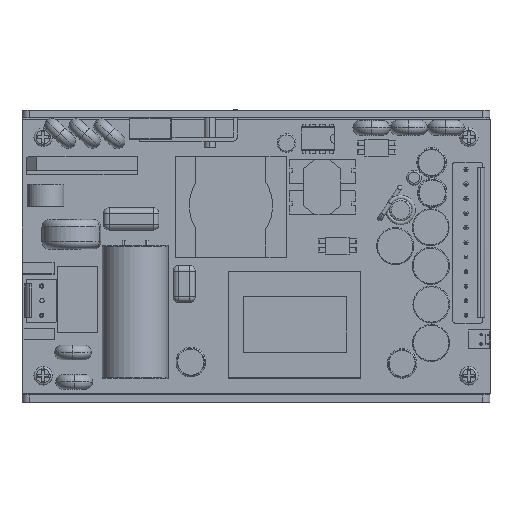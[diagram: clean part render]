
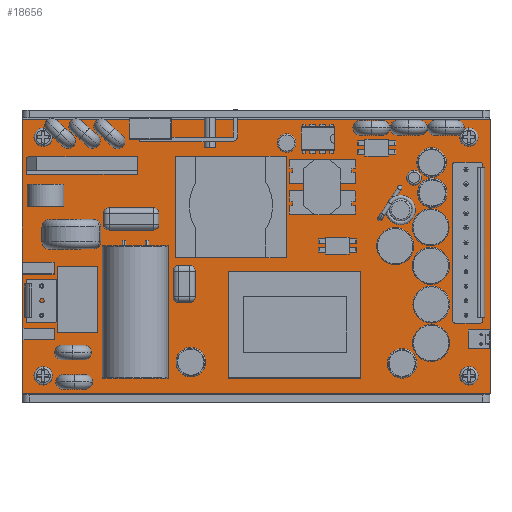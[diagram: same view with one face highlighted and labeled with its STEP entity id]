
A CAD part, top view. The second image highlights one B-rep face of the part: STEP entity #18656.
In plain terms, the highlighted planar face has unit normal (0, 0, 1).
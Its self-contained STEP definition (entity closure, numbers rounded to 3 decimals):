
#180 = CARTESIAN_POINT ( 'NONE',  ( 121.28, 4.695, 1.6 ) ) ;
#529 = ORIENTED_EDGE ( 'NONE', *, *, #4502, .T. ) ;
#678 = EDGE_CURVE ( 'NONE', #3056, #2037, #8606, .T. ) ;
#714 = ORIENTED_EDGE ( 'NONE', *, *, #22293, .T. ) ;
#862 = FACE_BOUND ( 'NONE', #2065, .T. ) ;
#1065 = VECTOR ( 'NONE', #17452, 1000. ) ;
#1113 = VERTEX_POINT ( 'NONE', #24019 ) ;
#1235 = LINE ( 'NONE', #4759, #6095 ) ;
#1256 = VERTEX_POINT ( 'NONE', #3909 ) ;
#2037 = VERTEX_POINT ( 'NONE', #12196 ) ;
#2065 = EDGE_LOOP ( 'NONE', ( #714, #12638 ) ) ;
#2071 = EDGE_CURVE ( 'NONE', #2403, #7015, #14305, .T. ) ;
#2167 = ORIENTED_EDGE ( 'NONE', *, *, #12326, .T. ) ;
#2259 = DIRECTION ( 'NONE',  ( -1., 0., 0. ) ) ;
#2403 = VERTEX_POINT ( 'NONE', #20219 ) ;
#2835 = DIRECTION ( 'NONE',  ( -1., 0., 0. ) ) ;
#3003 = EDGE_CURVE ( 'NONE', #1113, #25324, #9709, .T. ) ;
#3056 = VERTEX_POINT ( 'NONE', #15689 ) ;
#3098 = CIRCLE ( 'NONE', #13010, 1.575 ) ;
#3111 = AXIS2_PLACEMENT_3D ( 'NONE', #7892, #22355, #9979 ) ;
#3274 = CARTESIAN_POINT ( 'NONE',  ( 122.855, 4.695, 1.6 ) ) ;
#3909 = CARTESIAN_POINT ( 'NONE',  ( 0., 74.168, 1.6 ) ) ;
#4133 = DIRECTION ( 'NONE',  ( 0., 0., -1. ) ) ;
#4502 = EDGE_CURVE ( 'NONE', #7015, #2403, #12922, .T. ) ;
#4663 = DIRECTION ( 'NONE',  ( 0., 0., -1. ) ) ;
#4759 = CARTESIAN_POINT ( 'NONE',  ( 127., 0., 1.6 ) ) ;
#5305 = EDGE_CURVE ( 'NONE', #2037, #3056, #3098, .T. ) ;
#5826 = CARTESIAN_POINT ( 'NONE',  ( 5.72, 4.7, 1.6 ) ) ;
#6056 = ORIENTED_EDGE ( 'NONE', *, *, #2071, .T. ) ;
#6095 = VECTOR ( 'NONE', #25520, 1000. ) ;
#6579 = LINE ( 'NONE', #25728, #1065 ) ;
#6652 = PLANE ( 'NONE',  #16004 ) ;
#6956 = ORIENTED_EDGE ( 'NONE', *, *, #12751, .T. ) ;
#7015 = VERTEX_POINT ( 'NONE', #11031 ) ;
#7155 = DIRECTION ( 'NONE',  ( 0., 0., -1. ) ) ;
#7194 = CIRCLE ( 'NONE', #25224, 1.575 ) ;
#7886 = EDGE_LOOP ( 'NONE', ( #2167, #16486, #16503, #22050 ) ) ;
#7892 = CARTESIAN_POINT ( 'NONE',  ( 5.72, 69.468, 1.6 ) ) ;
#7931 = DIRECTION ( 'NONE',  ( -1., 0., 0. ) ) ;
#8545 = CARTESIAN_POINT ( 'NONE',  ( 0., 0., 1.6 ) ) ;
#8606 = CIRCLE ( 'NONE', #15717, 1.575 ) ;
#8636 = VERTEX_POINT ( 'NONE', #9619 ) ;
#8786 = VERTEX_POINT ( 'NONE', #15702 ) ;
#9099 = CARTESIAN_POINT ( 'NONE',  ( 121.28, 69.473, 1.6 ) ) ;
#9619 = CARTESIAN_POINT ( 'NONE',  ( 0., 0., 1.6 ) ) ;
#9709 = CIRCLE ( 'NONE', #3111, 1.575 ) ;
#9958 = DIRECTION ( 'NONE',  ( 0., 0., -1. ) ) ;
#9979 = DIRECTION ( 'NONE',  ( -1., 0., 0. ) ) ;
#11031 = CARTESIAN_POINT ( 'NONE',  ( 119.705, 69.473, 1.6 ) ) ;
#11118 = AXIS2_PLACEMENT_3D ( 'NONE', #9099, #23581, #11194 ) ;
#11134 = DIRECTION ( 'NONE',  ( 0., 0., -1. ) ) ;
#11194 = DIRECTION ( 'NONE',  ( -1., 0., 0. ) ) ;
#11359 = VECTOR ( 'NONE', #2835, 1000. ) ;
#11641 = CARTESIAN_POINT ( 'NONE',  ( 127., 74.168, 1.6 ) ) ;
#11843 = VERTEX_POINT ( 'NONE', #3274 ) ;
#12182 = FACE_BOUND ( 'NONE', #25032, .T. ) ;
#12196 = CARTESIAN_POINT ( 'NONE',  ( 4.145, 4.7, 1.6 ) ) ;
#12326 = EDGE_CURVE ( 'NONE', #1256, #8636, #6579, .T. ) ;
#12638 = ORIENTED_EDGE ( 'NONE', *, *, #3003, .T. ) ;
#12645 = AXIS2_PLACEMENT_3D ( 'NONE', #16518, #4133, #18599 ) ;
#12751 = EDGE_CURVE ( 'NONE', #11843, #8786, #7194, .T. ) ;
#12922 = CIRCLE ( 'NONE', #11118, 1.575 ) ;
#13010 = AXIS2_PLACEMENT_3D ( 'NONE', #19549, #7155, #21640 ) ;
#13770 = EDGE_CURVE ( 'NONE', #16387, #1256, #23024, .T. ) ;
#14305 = CIRCLE ( 'NONE', #12645, 1.575 ) ;
#14662 = DIRECTION ( 'NONE',  ( 0., 0., -1. ) ) ;
#15231 = CARTESIAN_POINT ( 'NONE',  ( 0., 74.168, 1.6 ) ) ;
#15522 = ORIENTED_EDGE ( 'NONE', *, *, #5305, .T. ) ;
#15689 = CARTESIAN_POINT ( 'NONE',  ( 7.295, 4.7, 1.6 ) ) ;
#15702 = CARTESIAN_POINT ( 'NONE',  ( 119.705, 4.695, 1.6 ) ) ;
#15717 = AXIS2_PLACEMENT_3D ( 'NONE', #5826, #20319, #7931 ) ;
#16004 = AXIS2_PLACEMENT_3D ( 'NONE', #16977, #4663, #19139 ) ;
#16387 = VERTEX_POINT ( 'NONE', #11641 ) ;
#16486 = ORIENTED_EDGE ( 'NONE', *, *, #21441, .T. ) ;
#16503 = ORIENTED_EDGE ( 'NONE', *, *, #23594, .T. ) ;
#16518 = CARTESIAN_POINT ( 'NONE',  ( 121.28, 69.473, 1.6 ) ) ;
#16749 = FACE_OUTER_BOUND ( 'NONE', #7886, .T. ) ;
#16977 = CARTESIAN_POINT ( 'NONE',  ( 0., 0., 1.6 ) ) ;
#17028 = FACE_BOUND ( 'NONE', #22538, .T. ) ;
#17452 = DIRECTION ( 'NONE',  ( 0., -1., 0. ) ) ;
#17767 = EDGE_LOOP ( 'NONE', ( #529, #6056 ) ) ;
#18599 = DIRECTION ( 'NONE',  ( -1., 0., 0. ) ) ;
#18656 = ADVANCED_FACE ( 'NONE', ( #862, #17028, #12182, #22244, #16749 ), #6652, .F. ) ;
#18845 = VECTOR ( 'NONE', #25144, 1000. ) ;
#19139 = DIRECTION ( 'NONE',  ( -1., 0., 0. ) ) ;
#19375 = AXIS2_PLACEMENT_3D ( 'NONE', #22340, #9958, #24444 ) ;
#19549 = CARTESIAN_POINT ( 'NONE',  ( 5.72, 4.7, 1.6 ) ) ;
#20141 = LINE ( 'NONE', #8545, #18845 ) ;
#20219 = CARTESIAN_POINT ( 'NONE',  ( 122.855, 69.473, 1.6 ) ) ;
#20319 = DIRECTION ( 'NONE',  ( 0., 0., -1. ) ) ;
#21441 = EDGE_CURVE ( 'NONE', #8636, #22029, #20141, .T. ) ;
#21640 = DIRECTION ( 'NONE',  ( -1., 0., 0. ) ) ;
#22029 = VERTEX_POINT ( 'NONE', #23348 ) ;
#22050 = ORIENTED_EDGE ( 'NONE', *, *, #13770, .T. ) ;
#22244 = FACE_BOUND ( 'NONE', #17767, .T. ) ;
#22293 = EDGE_CURVE ( 'NONE', #25324, #1113, #22351, .T. ) ;
#22326 = CIRCLE ( 'NONE', #22502, 1.575 ) ;
#22340 = CARTESIAN_POINT ( 'NONE',  ( 5.72, 69.468, 1.6 ) ) ;
#22351 = CIRCLE ( 'NONE', #19375, 1.575 ) ;
#22355 = DIRECTION ( 'NONE',  ( 0., 0., -1. ) ) ;
#22502 = AXIS2_PLACEMENT_3D ( 'NONE', #180, #14662, #2259 ) ;
#22538 = EDGE_LOOP ( 'NONE', ( #15522, #26750 ) ) ;
#22673 = CARTESIAN_POINT ( 'NONE',  ( 4.145, 69.468, 1.6 ) ) ;
#22842 = EDGE_CURVE ( 'NONE', #8786, #11843, #22326, .T. ) ;
#23024 = LINE ( 'NONE', #15231, #11359 ) ;
#23128 = ORIENTED_EDGE ( 'NONE', *, *, #22842, .T. ) ;
#23348 = CARTESIAN_POINT ( 'NONE',  ( 127., 0., 1.6 ) ) ;
#23531 = CARTESIAN_POINT ( 'NONE',  ( 121.28, 4.695, 1.6 ) ) ;
#23581 = DIRECTION ( 'NONE',  ( 0., 0., -1. ) ) ;
#23594 = EDGE_CURVE ( 'NONE', #22029, #16387, #1235, .T. ) ;
#24019 = CARTESIAN_POINT ( 'NONE',  ( 7.295, 69.468, 1.6 ) ) ;
#24444 = DIRECTION ( 'NONE',  ( -1., 0., 0. ) ) ;
#25032 = EDGE_LOOP ( 'NONE', ( #23128, #6956 ) ) ;
#25144 = DIRECTION ( 'NONE',  ( 1., 0., 0. ) ) ;
#25224 = AXIS2_PLACEMENT_3D ( 'NONE', #23531, #11134, #25637 ) ;
#25324 = VERTEX_POINT ( 'NONE', #22673 ) ;
#25520 = DIRECTION ( 'NONE',  ( 0., 1., 0. ) ) ;
#25637 = DIRECTION ( 'NONE',  ( -1., 0., 0. ) ) ;
#25728 = CARTESIAN_POINT ( 'NONE',  ( 0., 0., 1.6 ) ) ;
#26750 = ORIENTED_EDGE ( 'NONE', *, *, #678, .T. ) ;
